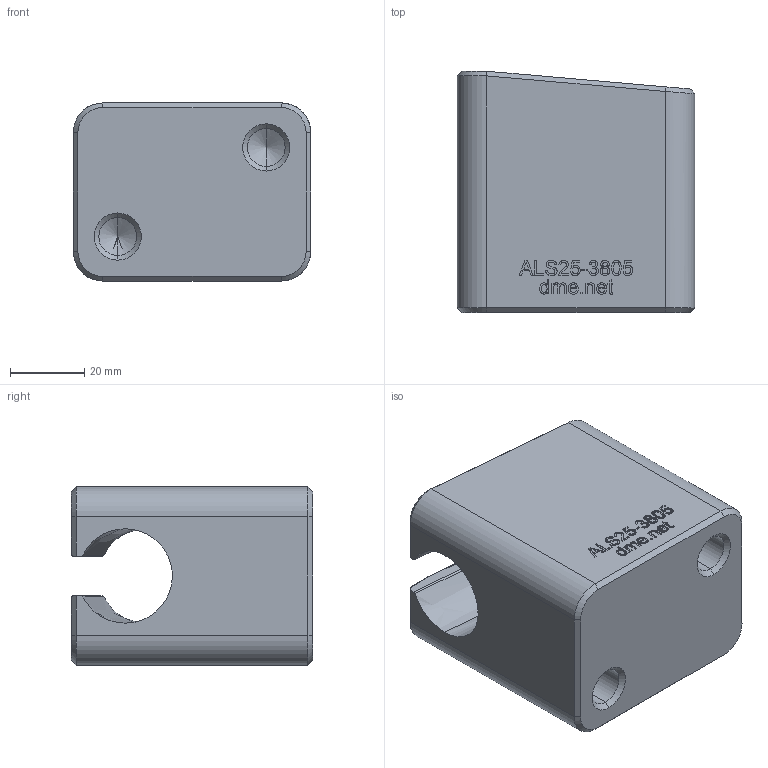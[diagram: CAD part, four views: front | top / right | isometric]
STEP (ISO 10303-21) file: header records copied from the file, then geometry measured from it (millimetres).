
FILE_DESCRIPTION (( 'STEP AP203' ), '1' );
FILE_NAME ('ALS25-3805.STEP', '2021-01-11T15:42:30', ( '' ), ( '' ), 'SwSTEP 2.0', 'SolidWorks 2020', '' );
FILE_SCHEMA (( 'CONFIG_CONTROL_DESIGN' ));
Length unit declared in the file: millimetre
Products named in the file (1): ALS25-3805
Bounding box: 64 x 65 x 48 mm (x, y, z)
Volume: 151649.6 mm3; surface area: 23271.1 mm2
Topology: 1 solids, 1 shells, 296 faces, 784 edges, 512 vertices
Faces by surface type: plane 135, bspline 133, cone 14, cylinder 14
Entity records: 16365 total; most frequent: CARTESIAN_POINT 9916, ORIENTED_EDGE 1560, DIRECTION 850, EDGE_CURVE 780, VERTEX_POINT 512, LINE 474, VECTOR 474, EDGE_LOOP 322
